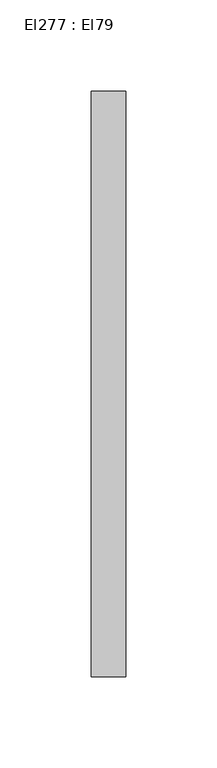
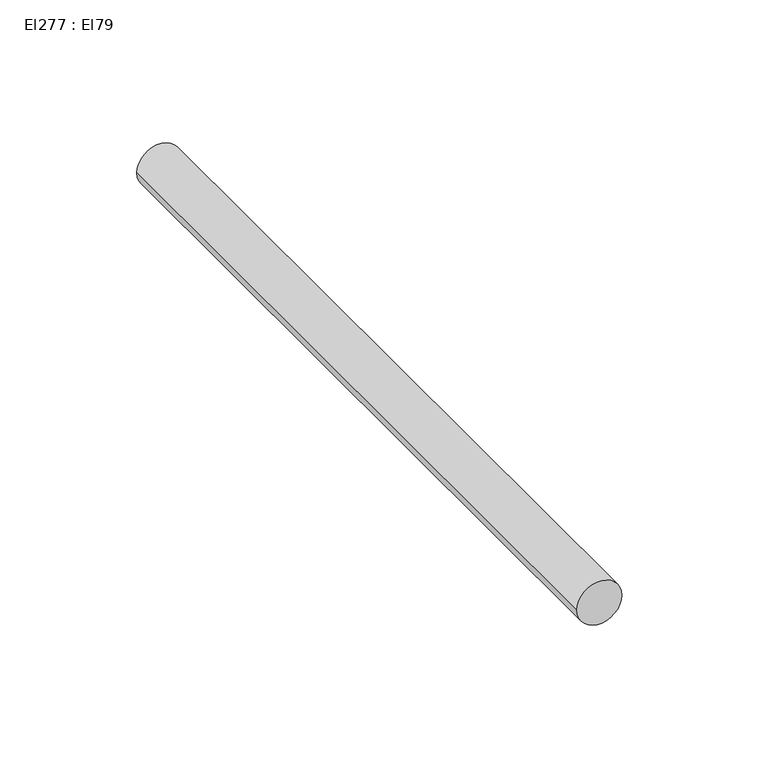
"""IFC4 building model written with IfcOpenShell, lengths in millimetres: cable carrier segment geometry, El277 : El79."""

import ifcopenshell
import ifcopenshell.guid

model = None  # the IFC model being written
_history = None  # IfcOwnerHistory: only IFC2X3 demands one
_inside = {}  # id of a spatial element -> (the spatial element, [elements in it])
_under = {}  # id of a project, library or spatial element -> (it, [spatial elements below it])
_declared = {}  # id of a project -> (the project, [libraries it declares])
_typed = {}  # id of a type object -> (the type object, [elements of that type])
_made_of = {}  # id of a material, layer set ... -> (it, [elements and type objects made of it])


def new_model(schema):
    """Start an empty IFC model of exactly this schema.

    Asked for "IFC4X3", IfcOpenShell would pick the latest addendum, in which some entities
    have other attributes; the version numbers below select the first issue.
    IFC2X3 requires an IfcOwnerHistory on every rooted entity: one is made here for all.
    """
    global model, _history
    if schema == "IFC4X3":
        model = ifcopenshell.file(schema_version=(4, 3, 0, 0))
    else:
        model = ifcopenshell.file(schema=schema)
    _inside.clear()
    _under.clear()
    _declared.clear()
    _typed.clear()
    _made_of.clear()
    _history = None
    if model.schema == "IFC2X3":
        org = make("IfcOrganization", Name="unknown")
        user = make(
            "IfcPersonAndOrganization",
            ThePerson=make("IfcPerson", FamilyName="unknown"),
            TheOrganization=org,
        )
        app = make(
            "IfcApplication",
            ApplicationDeveloper=org,
            Version="unknown",
            ApplicationFullName="unknown",
            ApplicationIdentifier="unknown",
        )
        _history = make(
            "IfcOwnerHistory",
            OwningUser=user,
            OwningApplication=app,
            ChangeAction="ADDED",
            CreationDate=0,
        )
    return model


def make(cls, **values):
    """One entity of the class cls with the attributes given. An attribute that is None is left unset."""
    return model.create_entity(
        cls, **{name: value for name, value in values.items() if value is not None}
    )


def rooted(cls, **values):
    """An entity with a GlobalId (a new one), such as an element, a storey or a relation."""
    return make(cls, GlobalId=ifcopenshell.guid.new(), OwnerHistory=_history, **values)


def si_unit(unit_type, name, prefix=None):
    """IfcSIUnit, for example si_unit("LENGTHUNIT", "METRE", prefix="MILLI")."""
    return make("IfcSIUnit", UnitType=unit_type, Prefix=prefix, Name=name)


def assignment(units):
    """IfcUnitAssignment: the units of a project."""
    return None if units is None else make("IfcUnitAssignment", Units=units)


def point(xyz):
    """IfcCartesianPoint."""
    return None if xyz is None else make("IfcCartesianPoint", Coordinates=xyz)


def direction(xyz):
    """IfcDirection."""
    return None if xyz is None else make("IfcDirection", DirectionRatios=xyz)


def frame(location, z_axis=None, x_axis=None):
    """IfcAxis2Placement3D, a coordinate frame: its origin and axes. An axis left out is left unset."""
    return make(
        "IfcAxis2Placement3D",
        Location=point(location),
        Axis=direction(z_axis),
        RefDirection=direction(x_axis),
    )


def frame_2d(location, x_axis=None):
    """IfcAxis2Placement2D, a coordinate frame in the plane: its origin and x axis."""
    return make(
        "IfcAxis2Placement2D", Location=point(location), RefDirection=direction(x_axis)
    )


def origin():
    """The frame at (0, 0, 0) with its axes left unset."""
    return frame((0.0, 0.0, 0.0))


def place(relative_to, where):
    """IfcLocalPlacement: puts the frame where relative to a parent placement (None: the world)."""
    return make(
        "IfcLocalPlacement", PlacementRelTo=relative_to, RelativePlacement=where
    )


def context(
    kind, dimensions, precision=None, world=None, true_north=None, identifier=None
):
    """IfcGeometricRepresentationContext, for example the 3D "Model" context."""
    return make(
        "IfcGeometricRepresentationContext",
        ContextIdentifier=identifier,
        ContextType=kind,
        CoordinateSpaceDimension=dimensions,
        Precision=precision,
        WorldCoordinateSystem=world,
        TrueNorth=true_north,
    )


def project(units=None, contexts=None):
    """IfcProject with its units and contexts."""
    return rooted(
        "IfcProject",
        Name="project",
        RepresentationContexts=contexts,
        UnitsInContext=assignment(units),
    )


def spatial(cls, under=None, at=None, **own):
    """A site, building, storey or space (cls), placed at a placement, below another one or the project."""
    s = rooted(cls, ObjectPlacement=at, **own)
    if under is not None:
        _under.setdefault(under.id(), (under, []))[1].append(s)
    return s


def circle_curve(where, radius):
    """IfcCircle in the frame where."""
    return make("IfcCircle", Position=where, Radius=radius)


def trimmed(basis, trim1, trim2, sense, master):
    """IfcTrimmedCurve: the piece of a basis curve between two trims."""
    return make(
        "IfcTrimmedCurve",
        BasisCurve=basis,
        Trim1=trim1,
        Trim2=trim2,
        SenseAgreement=sense,
        MasterRepresentation=master,
    )


def segment(curve, same_sense, transition):
    """IfcCompositeCurveSegment."""
    return make(
        "IfcCompositeCurveSegment",
        Transition=transition,
        SameSense=same_sense,
        ParentCurve=curve,
    )


def composite_curve(segments, self_intersect=None):
    """IfcCompositeCurve: segments joined end to end."""
    return make("IfcCompositeCurve", Segments=segments, SelfIntersect=self_intersect)


def outline(outer, holes=None, kind="AREA"):
    """IfcArbitraryClosedProfileDef: a profile drawn as a closed curve; with holes, ...WithVoids."""
    if holes is None:
        return make("IfcArbitraryClosedProfileDef", ProfileType=kind, OuterCurve=outer)
    return make(
        "IfcArbitraryProfileDefWithVoids",
        ProfileType=kind,
        OuterCurve=outer,
        InnerCurves=holes,
    )


def extrude(swept, where, along, depth):
    """IfcExtrudedAreaSolid: the profile swept, set in the frame where, extruded along a direction by depth."""
    return make(
        "IfcExtrudedAreaSolid",
        SweptArea=swept,
        Position=where,
        ExtrudedDirection=direction(along),
        Depth=depth,
    )


def shape(context_of_items, identifier, shape_type, items):
    """IfcShapeRepresentation: the items that make up one representation, for example the "Body"."""
    return make(
        "IfcShapeRepresentation",
        ContextOfItems=context_of_items,
        RepresentationIdentifier=identifier,
        RepresentationType=shape_type,
        Items=items,
    )


def source(mapping_origin, context_of_items, identifier, shape_type, items):
    """IfcRepresentationMap: a shape defined once, which mapped items show again and again."""
    return make(
        "IfcRepresentationMap",
        MappingOrigin=mapping_origin,
        MappedRepresentation=shape(context_of_items, identifier, shape_type, items),
    )


def transform(
    local_origin,
    x_axis=None,
    y_axis=None,
    z_axis=None,
    scale=None,
    scale2=None,
    scale3=None,
    uniform=True,
):
    """IfcCartesianTransformationOperator3D, or its non-uniform kind. x_axis, y_axis, z_axis: its Axis1, 2, 3."""
    if uniform:
        return make(
            "IfcCartesianTransformationOperator3D",
            Axis1=direction(x_axis),
            Axis2=direction(y_axis),
            LocalOrigin=point(local_origin),
            Scale=scale,
            Axis3=direction(z_axis),
        )
    return make(
        "IfcCartesianTransformationOperator3DnonUniform",
        Axis1=direction(x_axis),
        Axis2=direction(y_axis),
        LocalOrigin=point(local_origin),
        Scale=scale,
        Axis3=direction(z_axis),
        Scale2=scale2,
        Scale3=scale3,
    )


def mapped(mapping_source, mapping_target):
    """IfcMappedItem: shows the shape of a source again, moved by a transform."""
    return make(
        "IfcMappedItem", MappingSource=mapping_source, MappingTarget=mapping_target
    )


def made_of(thing, what):
    """Note that an element or type object is made of a material, layer set ...; save() writes the relation."""
    if what is not None:
        _made_of.setdefault(what.id(), (what, []))[1].append(thing)
    return thing


def element(
    cls,
    number,
    at=None,
    inside=None,
    cuts=None,
    type_object=None,
    material=None,
    context=None,
    identifier="Body",
    shape_type=None,
    held_by="IfcProductDefinitionShape",
    body=None,
    shapes=None,
    **own,
):
    """One element of the class cls, such as IfcWall. Its Tag is "e" and its number.

    at: its placement. inside: the storey or other place that contains it. cuts: it is an
    opening in that element (IfcRelVoidsElement). A single representation is given by context,
    identifier, shape_type and body (its items); several are given by shapes. held_by: the class
    of the entity that holds the representations. save() writes the other relations.
    """
    e = rooted(cls, Tag="e%d" % number, ObjectPlacement=at, **own)
    if body is not None:
        shapes = [shape(context, identifier, shape_type, body)]
    if shapes is not None:
        e.Representation = make(held_by, Representations=shapes)
    if inside is not None:
        _inside.setdefault(inside.id(), (inside, []))[1].append(e)
    if cuts is not None:
        rooted(
            "IfcRelVoidsElement", RelatingBuildingElement=cuts, RelatedOpeningElement=e
        )
    if type_object is not None:
        _typed.setdefault(type_object.id(), (type_object, []))[1].append(e)
    return made_of(e, material)


def aggregate(whole, parts):
    """IfcRelAggregates: a whole, such as a stair, and the parts it consists of."""
    return rooted("IfcRelAggregates", RelatingObject=whole, RelatedObjects=parts)


def save(model, path):
    """Write the relations noted so far, then the file.

    IfcRelAggregates (storeys below a building ...), IfcRelContainedInSpatialStructure (elements
    in a storey), IfcRelDefinesByType, IfcRelAssociatesMaterial and IfcRelDeclares: one each for
    every whole, place, type object, material and project.
    """
    for whole, parts in _under.values():
        aggregate(whole, parts)
    for where, things in _inside.values():
        rooted(
            "IfcRelContainedInSpatialStructure",
            RelatedElements=things,
            RelatingStructure=where,
        )
    for kind, things in _typed.values():
        rooted("IfcRelDefinesByType", RelatedObjects=things, RelatingType=kind)
    for what, things in _made_of.values():
        rooted("IfcRelAssociatesMaterial", RelatedObjects=things, RelatingMaterial=what)
    for by, libraries in _declared.values():
        rooted("IfcRelDeclares", RelatingContext=by, RelatedDefinitions=libraries)
    model.write(path)


def el277_el79_a86f90d6(model_context):
    return source(origin(), model_context, "Body", "SweptSolid", [
        extrude(outline(composite_curve([segment(trimmed(circle_curve(frame_2d((1800.0, 15114.4746511)), 9.5), [point((1800.0, 15104.9746511))], [point((1800.0, 15123.9746511))], False, "CARTESIAN"), True, "CONTINUOUS"), segment(trimmed(circle_curve(frame_2d((1800.0, 15114.4746511)), 9.5), [point((1800.0, 15123.9746511))], [point((1800.0, 15104.9746511))], False, "CARTESIAN"), True, "CONTINUOUS")], self_intersect=False)), frame((0.0, 8916.4531745, 0.0), z_axis=(0.0, 1.0, 0.0), x_axis=(0.0, 0.0, 1.0)), (0.0, 0.0, 1.0), 321.917),
    ])


if __name__ == "__main__":
    model = new_model("IFC4")
    model_context = context("Model", 3, world=origin())
    ifc_project = project(units=[si_unit("LENGTHUNIT", "METRE", prefix="MILLI")], contexts=[model_context])
    site = spatial("IfcSite", under=ifc_project)
    building = spatial("IfcBuilding", under=site)
    placement = place(None, origin())
    el277_el79_shape = el277_el79_a86f90d6(model_context)
    element("IfcCableCarrierSegment", 1, ObjectType="El277 : El79", at=placement, inside=building, context=model_context, shape_type="MappedRepresentation", body=[
        mapped(el277_el79_shape, transform((0.0, 0.0, 0.0), x_axis=(1.0, 0.0, 0.0), y_axis=(0.0, 1.0, 0.0), z_axis=(0.0, 0.0, 1.0))),
    ])
    save(model, "model.ifc")
